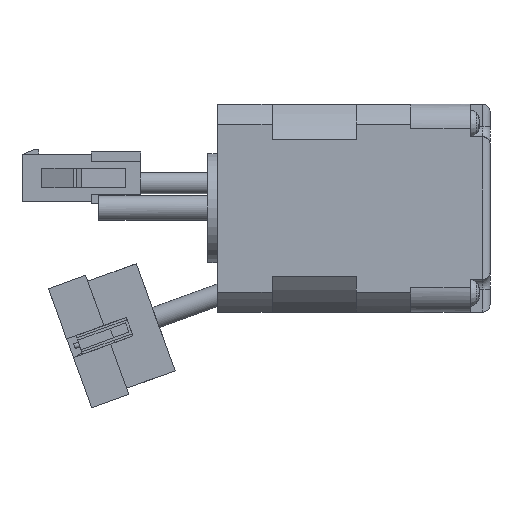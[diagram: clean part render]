
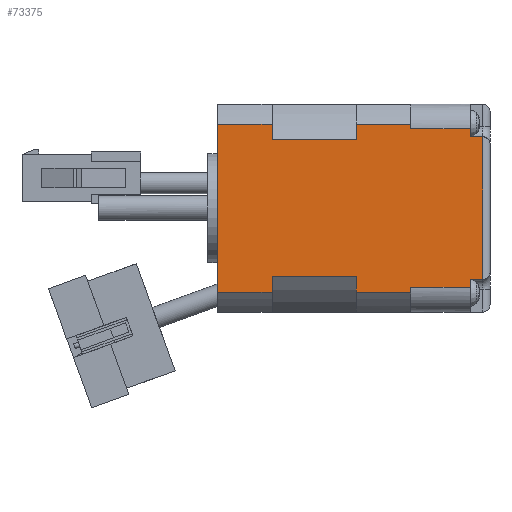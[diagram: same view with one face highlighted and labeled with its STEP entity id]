
A CAD part, front view. The second image highlights one B-rep face of the part: STEP entity #73375.
In plain terms, the highlighted planar face has unit normal (0, -1, 0).
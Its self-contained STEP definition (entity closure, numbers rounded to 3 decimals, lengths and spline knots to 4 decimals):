
#372=LINE('',#100450,#10749);
#373=LINE('',#100454,#10750);
#375=LINE('',#100461,#10752);
#389=LINE('',#100508,#10766);
#392=LINE('',#100519,#10769);
#393=LINE('',#100522,#10770);
#405=LINE('',#100558,#10782);
#406=LINE('',#100570,#10783);
#413=LINE('',#100580,#10790);
#418=LINE('',#100606,#10795);
#454=LINE('',#100701,#10831);
#455=LINE('',#100704,#10832);
#456=LINE('',#100706,#10833);
#457=LINE('',#100708,#10834);
#458=LINE('',#100710,#10835);
#459=LINE('',#100712,#10836);
#460=LINE('',#100714,#10837);
#461=LINE('',#100716,#10838);
#462=LINE('',#100718,#10839);
#463=LINE('',#100719,#10840);
#10749=VECTOR('',#81542,0.1262);
#10750=VECTOR('',#81545,0.1262);
#10752=VECTOR('',#81553,0.6693);
#10766=VECTOR('',#81597,0.6693);
#10769=VECTOR('',#81608,0.1262);
#10770=VECTOR('',#81611,0.1262);
#10782=VECTOR('',#81641,1.3363);
#10783=VECTOR('',#81654,0.4331);
#10790=VECTOR('',#81667,0.4331);
#10795=VECTOR('',#81696,0.4331);
#10831=VECTOR('',#81768,0.4331);
#10832=VECTOR('',#81771,0.0382);
#10833=VECTOR('',#81772,0.4724);
#10834=VECTOR('',#81773,0.063);
#10835=VECTOR('',#81774,0.0984);
#10836=VECTOR('',#81775,1.1339);
#10837=VECTOR('',#81776,0.0984);
#10838=VECTOR('',#81777,0.063);
#10839=VECTOR('',#81778,0.4724);
#10840=VECTOR('',#81779,0.0382);
#21107=PLANE('',#77256);
#24892=FACE_OUTER_BOUND('',#28690,.T.);
#28690=EDGE_LOOP('',(#51680,#51681,#51682,#51683,#51684,#51685,#51686,#51687,
#51688,#51689,#51690,#51691,#51692,#51693,#51694,#51695,#51696,#51697,#51698,
#51699));
#33094=VERTEX_POINT('',#100444);
#33096=VERTEX_POINT('',#100448);
#33097=VERTEX_POINT('',#100452);
#33098=VERTEX_POINT('',#100453);
#33117=VERTEX_POINT('',#100506);
#33118=VERTEX_POINT('',#100507);
#33122=VERTEX_POINT('',#100517);
#33123=VERTEX_POINT('',#100521);
#33131=VERTEX_POINT('',#100543);
#33138=VERTEX_POINT('',#100556);
#33152=VERTEX_POINT('',#100605);
#33193=VERTEX_POINT('',#100699);
#33194=VERTEX_POINT('',#100703);
#33195=VERTEX_POINT('',#100705);
#33196=VERTEX_POINT('',#100707);
#33197=VERTEX_POINT('',#100709);
#33198=VERTEX_POINT('',#100711);
#33199=VERTEX_POINT('',#100713);
#33200=VERTEX_POINT('',#100715);
#33201=VERTEX_POINT('',#100717);
#40450=EDGE_CURVE('',#33094,#33096,#372,.T.);
#40451=EDGE_CURVE('',#33097,#33098,#373,.T.);
#40455=EDGE_CURVE('',#33098,#33096,#375,.T.);
#40477=EDGE_CURVE('',#33117,#33118,#389,.T.);
#40483=EDGE_CURVE('',#33117,#33122,#392,.T.);
#40484=EDGE_CURVE('',#33118,#33123,#393,.T.);
#40502=EDGE_CURVE('',#33138,#33131,#405,.T.);
#40508=EDGE_CURVE('',#33131,#33122,#406,.T.);
#40515=EDGE_CURVE('',#33138,#33094,#413,.T.);
#40526=EDGE_CURVE('',#33123,#33152,#418,.T.);
#40574=EDGE_CURVE('',#33097,#33193,#454,.T.);
#40575=EDGE_CURVE('',#33193,#33194,#455,.T.);
#40576=EDGE_CURVE('',#33194,#33195,#456,.T.);
#40577=EDGE_CURVE('',#33196,#33195,#457,.T.);
#40578=EDGE_CURVE('',#33196,#33197,#458,.T.);
#40579=EDGE_CURVE('',#33197,#33198,#459,.T.);
#40580=EDGE_CURVE('',#33199,#33198,#460,.T.);
#40581=EDGE_CURVE('',#33200,#33199,#461,.T.);
#40582=EDGE_CURVE('',#33201,#33200,#462,.T.);
#40583=EDGE_CURVE('',#33201,#33152,#463,.T.);
#51680=ORIENTED_EDGE('',*,*,#40451,.F.);
#51681=ORIENTED_EDGE('',*,*,#40574,.T.);
#51682=ORIENTED_EDGE('',*,*,#40575,.T.);
#51683=ORIENTED_EDGE('',*,*,#40576,.T.);
#51684=ORIENTED_EDGE('',*,*,#40577,.F.);
#51685=ORIENTED_EDGE('',*,*,#40578,.T.);
#51686=ORIENTED_EDGE('',*,*,#40579,.T.);
#51687=ORIENTED_EDGE('',*,*,#40580,.F.);
#51688=ORIENTED_EDGE('',*,*,#40581,.F.);
#51689=ORIENTED_EDGE('',*,*,#40582,.F.);
#51690=ORIENTED_EDGE('',*,*,#40583,.T.);
#51691=ORIENTED_EDGE('',*,*,#40526,.F.);
#51692=ORIENTED_EDGE('',*,*,#40484,.F.);
#51693=ORIENTED_EDGE('',*,*,#40477,.F.);
#51694=ORIENTED_EDGE('',*,*,#40483,.T.);
#51695=ORIENTED_EDGE('',*,*,#40508,.F.);
#51696=ORIENTED_EDGE('',*,*,#40502,.F.);
#51697=ORIENTED_EDGE('',*,*,#40515,.T.);
#51698=ORIENTED_EDGE('',*,*,#40450,.T.);
#51699=ORIENTED_EDGE('',*,*,#40455,.F.);
#73375=ADVANCED_FACE('',(#24892),#21107,.F.);
#77256=AXIS2_PLACEMENT_3D('',#100702,#81769,#81770);
#81542=DIRECTION('',(0.,0.,1.));
#81545=DIRECTION('',(0.,0.,1.));
#81553=DIRECTION('',(-1.,0.,0.));
#81597=DIRECTION('',(1.,0.,0.));
#81608=DIRECTION('',(0.,0.,1.));
#81611=DIRECTION('',(0.,0.,1.));
#81641=DIRECTION('',(0.,0.,1.));
#81654=DIRECTION('',(1.,0.,0.));
#81667=DIRECTION('',(1.,0.,0.));
#81696=DIRECTION('',(1.,0.,0.));
#81768=DIRECTION('',(1.,0.,0.));
#81769=DIRECTION('center_axis',(0.,1.,0.));
#81770=DIRECTION('ref_axis',(0.,0.,-1.));
#81771=DIRECTION('',(0.,0.,1.));
#81772=DIRECTION('',(1.,0.,0.));
#81773=DIRECTION('',(0.,0.,-1.));
#81774=DIRECTION('',(1.,0.,0.));
#81775=DIRECTION('',(0.,0.,1.));
#81776=DIRECTION('',(1.,0.,0.));
#81777=DIRECTION('',(0.,0.,-1.));
#81778=DIRECTION('',(1.,0.,0.));
#81779=DIRECTION('',(0.,0.,1.));
#100444=CARTESIAN_POINT('',(-1.1024,-0.7529,-0.6767));
#100448=CARTESIAN_POINT('',(-1.1024,-0.7529,-0.5505));
#100450=CARTESIAN_POINT('',(-1.1024,-0.7529,-0.6767));
#100452=CARTESIAN_POINT('',(-0.4331,-0.7529,-0.6767));
#100453=CARTESIAN_POINT('',(-0.4331,-0.7529,-0.5505));
#100454=CARTESIAN_POINT('',(-0.4331,-0.7529,-0.6767));
#100461=CARTESIAN_POINT('',(-0.4331,-0.7529,-0.5505));
#100506=CARTESIAN_POINT('',(-1.1024,-0.7529,0.5334));
#100507=CARTESIAN_POINT('',(-0.4331,-0.7529,0.5334));
#100508=CARTESIAN_POINT('',(-0.4331,-0.7529,0.5334));
#100517=CARTESIAN_POINT('',(-1.1024,-0.7529,0.6596));
#100519=CARTESIAN_POINT('',(-1.1024,-0.7529,-0.6767));
#100521=CARTESIAN_POINT('',(-0.4331,-0.7529,0.6596));
#100522=CARTESIAN_POINT('',(-0.4331,-0.7529,-0.6767));
#100543=CARTESIAN_POINT('',(-1.5354,-0.7529,0.6596));
#100556=CARTESIAN_POINT('',(-1.5354,-0.7529,-0.6767));
#100558=CARTESIAN_POINT('',(-1.5354,-0.7529,-0.6767));
#100570=CARTESIAN_POINT('',(-1.5354,-0.7529,0.6596));
#100580=CARTESIAN_POINT('',(-1.5354,-0.7529,-0.6767));
#100605=CARTESIAN_POINT('',(0.,-0.7529,0.6596));
#100606=CARTESIAN_POINT('',(-1.5354,-0.7529,0.6596));
#100699=CARTESIAN_POINT('',(0.,-0.7529,-0.6767));
#100701=CARTESIAN_POINT('',(-1.5354,-0.7529,-0.6767));
#100702=CARTESIAN_POINT('Origin',(-1.5354,-0.7529,
-0.6767));
#100703=CARTESIAN_POINT('',(0.,-0.7529,-0.6385));
#100704=CARTESIAN_POINT('',(0.,-0.7529,-0.6767));
#100705=CARTESIAN_POINT('',(0.4724,-0.7529,-0.6385));
#100706=CARTESIAN_POINT('',(0.,-0.7529,-0.6385));
#100707=CARTESIAN_POINT('',(0.4724,-0.7529,-0.5755));
#100708=CARTESIAN_POINT('',(0.4724,-0.7529,-0.5755));
#100709=CARTESIAN_POINT('',(0.5709,-0.7529,-0.5755));
#100710=CARTESIAN_POINT('',(0.4724,-0.7529,-0.5755));
#100711=CARTESIAN_POINT('',(0.5709,-0.7529,0.5584));
#100712=CARTESIAN_POINT('',(0.5709,-0.7529,-2.2319));
#100713=CARTESIAN_POINT('',(0.4724,-0.7529,0.5584));
#100714=CARTESIAN_POINT('',(0.4724,-0.7529,0.5584));
#100715=CARTESIAN_POINT('',(0.4724,-0.7529,0.6214));
#100716=CARTESIAN_POINT('',(0.4724,-0.7529,0.5584));
#100717=CARTESIAN_POINT('',(0.,-0.7529,0.6214));
#100718=CARTESIAN_POINT('',(0.,-0.7529,0.6214));
#100719=CARTESIAN_POINT('',(0.,-0.7529,-0.6767));
